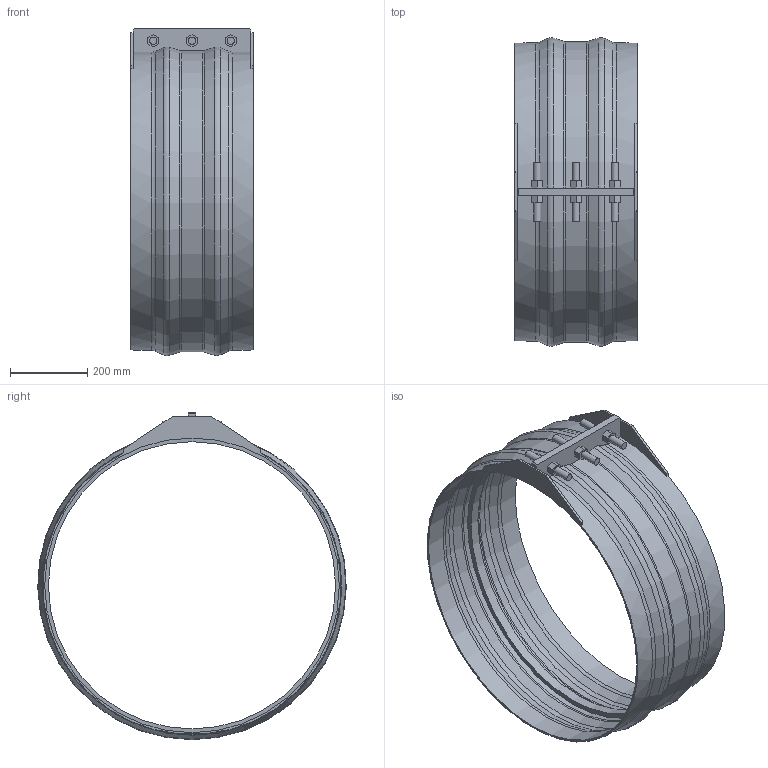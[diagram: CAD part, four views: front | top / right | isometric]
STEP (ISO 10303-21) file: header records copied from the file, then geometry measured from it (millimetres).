
FILE_DESCRIPTION(/* description */ ('VIC RESTRAINED COUPLING STYLE 233 (FLEX) (BRD)','CAx-IF Rec.Pracs.---Representation and Presentation of Product Manufacturing Information (PMI)---4.0---2014-10-13'),/* implementation_level */ '2;1');
FILE_NAME(/* name */ 'C:\Users\Vjadhav\Desktop\CAD for Inventor\Test for STEP\Vivek\Adsk_Inventor_Bolted Sleeve_iParts\STEP\Victaulic_VBSP_Coupling Flexible Restrained_Style 233 (BRD)\Victaulic_VBSP_Coupling Flexible Restrained_Style 233 (BRD)_100psi_30 (750).stp',/* time_stamp */ '2020-09-24T12:29:28+06:00',/* author */ ('Vjadhav'),/* organization */ ('Victaulic'),/* preprocessor_version */ 'ST-DEVELOPER v17.2',/* originating_system */ 'Autodesk Inventor 2019',/* authorisation */ '');
FILE_SCHEMA (('AP242_MANAGED_MODEL_BASED_3D_ENGINEERING_MIM_LF { 1 0 10303 442 1 1 4 }'));
Length unit declared in the file: inch
Products named in the file (1): Style_233_Type_2_100psi-30.0
Bounding box: 317.5 x 798.16 x 846.46 mm (x, y, z)
Volume: 5191897.1 mm3; surface area: 1777361 mm2
Topology: 1 solids, 1 shells, 115 faces, 309 edges, 210 vertices
Faces by surface type: plane 73, cylinder 22, torus 12, cone 8
Full cylindrical faces by diameter (mm): 19.05 x6, 742.95 x1, 762 x2, 768.35 x2
Entity records: 3970 total; most frequent: CARTESIAN_POINT 764, DIRECTION 645, ORIENTED_EDGE 618, EDGE_CURVE 309, AXIS2_PLACEMENT_3D 227, VERTEX_POINT 210, LINE 191, VECTOR 191
